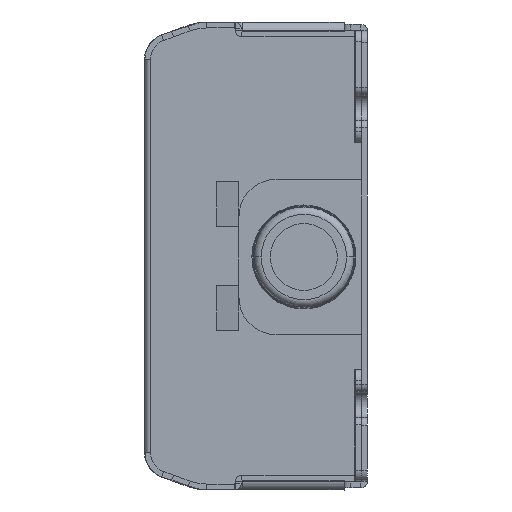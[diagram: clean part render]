
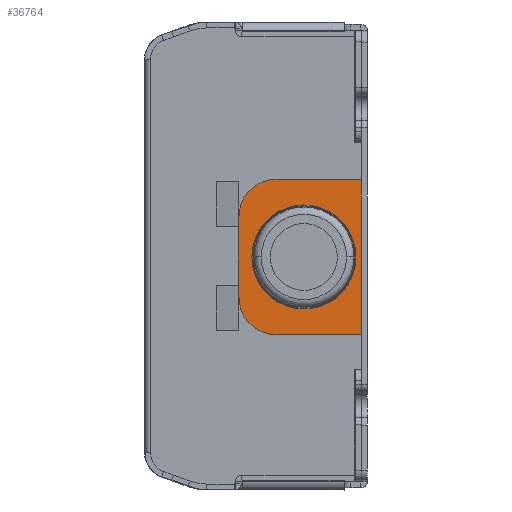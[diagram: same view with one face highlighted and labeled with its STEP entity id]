
A CAD part, left-side view. The second image highlights one B-rep face of the part: STEP entity #36764.
In plain terms, the highlighted planar face has unit normal (-1, 0, 0).
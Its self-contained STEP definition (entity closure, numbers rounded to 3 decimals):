
#35430=DIRECTION('',(0.,-1.,0.));
#35431=VECTOR('',#35430,20.9);
#35432=CARTESIAN_POINT('',(1778.576,-2414.064,212.));
#35433=LINE('',#35432,#35431);
#35494=DIRECTION('',(0.,0.,1.));
#35495=VECTOR('',#35494,11.5);
#35496=CARTESIAN_POINT('',(1778.576,-2434.964,212.));
#35497=LINE('',#35496,#35495);
#35506=CARTESIAN_POINT('',(1778.576,-2419.064,223.5));
#35507=DIRECTION('',(1.,0.,0.));
#35508=DIRECTION('',(0.,1.,0.));
#35509=AXIS2_PLACEMENT_3D('',#35506,#35507,#35508);
#35511=CARTESIAN_POINT('',(1778.576,-2429.964,223.5));
#35512=DIRECTION('',(1.,0.,0.));
#35513=DIRECTION('',(0.,0.,1.));
#35514=AXIS2_PLACEMENT_3D('',#35511,#35512,#35513);
#35516=CARTESIAN_POINT('',(1778.576,-2424.514,219.75));
#35517=DIRECTION('',(-1.,0.,0.));
#35518=DIRECTION('',(0.,-1.,0.));
#35519=AXIS2_PLACEMENT_3D('',#35516,#35517,#35518);
#35521=CARTESIAN_POINT('',(1778.576,-2424.514,219.75));
#35522=DIRECTION('',(-1.,0.,0.));
#35523=DIRECTION('',(0.,1.,0.));
#35524=AXIS2_PLACEMENT_3D('',#35521,#35522,#35523);
#35526=DIRECTION('',(0.,0.,-1.));
#35527=VECTOR('',#35526,11.5);
#35528=CARTESIAN_POINT('',(1778.576,-2414.064,223.5));
#35529=LINE('',#35528,#35527);
#35542=DIRECTION('',(0.,1.,0.));
#35543=VECTOR('',#35542,10.9);
#35544=CARTESIAN_POINT('',(1778.576,-2429.964,228.5));
#35545=LINE('',#35544,#35543);
#36309=CARTESIAN_POINT('',(1778.576,-2414.064,212.));
#36310=VERTEX_POINT('',#36309);
#36311=CARTESIAN_POINT('',(1778.576,-2434.964,212.));
#36312=VERTEX_POINT('',#36311);
#36327=CARTESIAN_POINT('',(1778.576,-2434.964,223.5));
#36328=VERTEX_POINT('',#36327);
#36329=CARTESIAN_POINT('',(1778.576,-2429.964,228.5));
#36330=VERTEX_POINT('',#36329);
#36331=CARTESIAN_POINT('',(1778.576,-2414.064,223.5));
#36332=VERTEX_POINT('',#36331);
#36333=CARTESIAN_POINT('',(1778.576,-2419.064,228.5));
#36334=VERTEX_POINT('',#36333);
#36335=CARTESIAN_POINT('',(1778.576,-2431.514,219.75));
#36336=CARTESIAN_POINT('',(1778.576,-2417.514,219.75));
#36337=VERTEX_POINT('',#36335);
#36338=VERTEX_POINT('',#36336);
#36742=CARTESIAN_POINT('',(1778.576,-2432.39,222.254));
#36743=DIRECTION('',(-1.,0.,0.));
#36744=DIRECTION('',(0.,-1.,0.));
#36745=AXIS2_PLACEMENT_3D('',#36742,#36743,#36744);
#36746=PLANE('',#36745);
#36748=ORIENTED_EDGE('',*,*,#36747,.F.);
#36750=ORIENTED_EDGE('',*,*,#36749,.T.);
#36752=ORIENTED_EDGE('',*,*,#36751,.F.);
#36753=ORIENTED_EDGE('',*,*,#36734,.T.);
#36754=ORIENTED_EDGE('',*,*,#36723,.F.);
#36755=ORIENTED_EDGE('',*,*,#36651,.F.);
#36756=EDGE_LOOP('',(#36748,#36750,#36752,#36753,#36754,#36755));
#36757=FACE_OUTER_BOUND('',#36756,.F.);
#36759=ORIENTED_EDGE('',*,*,#36758,.T.);
#36761=ORIENTED_EDGE('',*,*,#36760,.T.);
#36762=EDGE_LOOP('',(#36759,#36761));
#36763=FACE_BOUND('',#36762,.F.);
#35510=CIRCLE('',#35509,5.);
#35515=CIRCLE('',#35514,5.);
#35520=CIRCLE('',#35519,7.);
#35525=CIRCLE('',#35524,7.);
#36651=EDGE_CURVE('',#36310,#36312,#35433,.T.);
#36723=EDGE_CURVE('',#36312,#36328,#35497,.T.);
#36734=EDGE_CURVE('',#36330,#36328,#35515,.T.);
#36747=EDGE_CURVE('',#36332,#36310,#35529,.T.);
#36749=EDGE_CURVE('',#36332,#36334,#35510,.T.);
#36751=EDGE_CURVE('',#36330,#36334,#35545,.T.);
#36758=EDGE_CURVE('',#36337,#36338,#35520,.T.);
#36760=EDGE_CURVE('',#36338,#36337,#35525,.T.);
#36764=ADVANCED_FACE('',(#36757,#36763),#36746,.T.);
